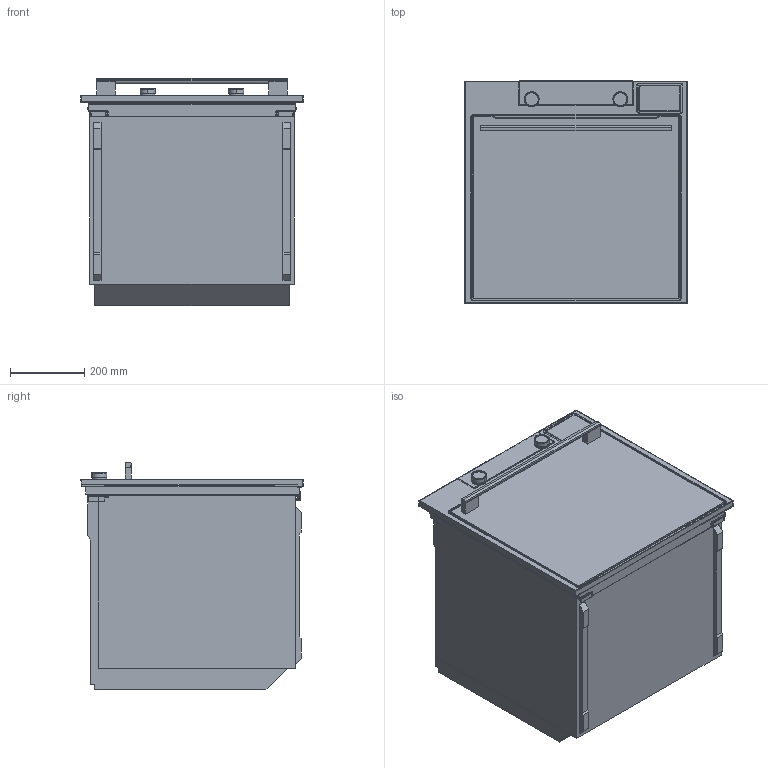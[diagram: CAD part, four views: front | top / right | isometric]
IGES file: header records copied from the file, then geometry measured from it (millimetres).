
Start section: SolidWorks IGES file using analytic representation for surfaces
Global section: file name: E:\3D za kuhinjaše\3D za kuhinjaše-ASKO\503328_OCS8687S\503328_OCS8687S\503328_OCS8687S.IGS; native system: SolidWorks 2016; preprocessor: SolidWorks 2016; author: kristijan.lamesic; date: 170914.091145; units: millimetre
Bounding box: 597 x 596.9 x 610.17 mm (x, y, z)
Surface area: 3708870.3 mm2 (no closed solid volume)
Topology: 0 solids, 0 shells, 502 faces, 5464 edges, 5464 vertices
Faces by surface type: bspline 313, revolution 189
